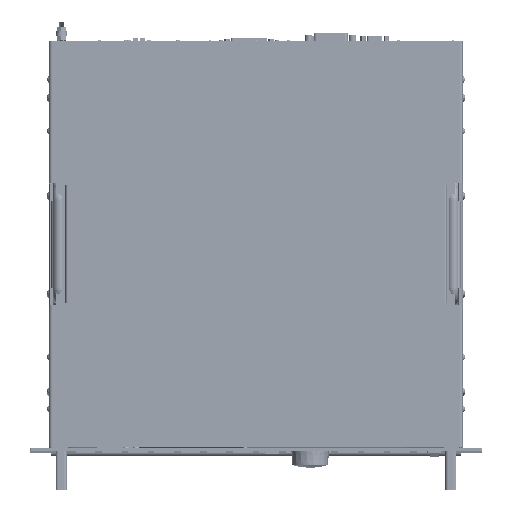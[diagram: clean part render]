
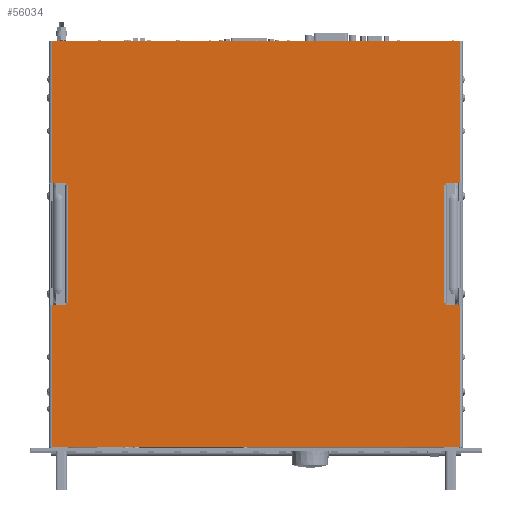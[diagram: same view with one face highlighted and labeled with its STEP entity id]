
A CAD part, top view. The second image highlights one B-rep face of the part: STEP entity #56034.
In plain terms, the highlighted planar face has unit normal (0, 0, 1).
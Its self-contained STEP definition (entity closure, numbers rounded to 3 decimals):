
#56034=ADVANCED_FACE('',(#115923),#115924,.F.);
#115923=FACE_OUTER_BOUND('',#205337,.T.);
#115924=PLANE('',#205338);
#205337=EDGE_LOOP('',(#370837,#370838,#370839,#370840,#370841,#370842,#370843,#370844,#370845,#370846,#370847,#370848,#370849,#370850,#370851,#370852,#370853,#370854,#370855,#370856));
#205338=AXIS2_PLACEMENT_3D('',#370857,#370858,#370859);
#370837=ORIENTED_EDGE('',*,*,#445608,.T.);
#370838=ORIENTED_EDGE('',*,*,#445628,.F.);
#370839=ORIENTED_EDGE('',*,*,#445629,.F.);
#370840=ORIENTED_EDGE('',*,*,#445272,.F.);
#370841=ORIENTED_EDGE('',*,*,#445594,.F.);
#370842=ORIENTED_EDGE('',*,*,#445257,.F.);
#370843=ORIENTED_EDGE('',*,*,#445583,.F.);
#370844=ORIENTED_EDGE('',*,*,#445630,.F.);
#370845=ORIENTED_EDGE('',*,*,#445626,.T.);
#370846=ORIENTED_EDGE('',*,*,#445621,.F.);
#370847=ORIENTED_EDGE('',*,*,#445618,.T.);
#370848=ORIENTED_EDGE('',*,*,#445631,.F.);
#370849=ORIENTED_EDGE('',*,*,#445559,.F.);
#370850=ORIENTED_EDGE('',*,*,#445247,.F.);
#370851=ORIENTED_EDGE('',*,*,#445548,.F.);
#370852=ORIENTED_EDGE('',*,*,#445267,.F.);
#370853=ORIENTED_EDGE('',*,*,#445632,.F.);
#370854=ORIENTED_EDGE('',*,*,#445633,.F.);
#370855=ORIENTED_EDGE('',*,*,#445605,.T.);
#370856=ORIENTED_EDGE('',*,*,#445613,.T.);
#370857=CARTESIAN_POINT('',(241.3,262.625,637.642));
#370858=DIRECTION('',(0.,0.,-1.0));
#370859=DIRECTION('',(-1.0,0.,0.));
#445247=EDGE_CURVE('',#541775,#541777,#541778,.T.);
#445257=EDGE_CURVE('',#541793,#541795,#541796,.T.);
#445267=EDGE_CURVE('',#541811,#541813,#541814,.T.);
#445272=EDGE_CURVE('',#541820,#541822,#541823,.T.);
#445548=EDGE_CURVE('',#541813,#541775,#542253,.T.);
#445559=EDGE_CURVE('',#541777,#542268,#542269,.T.);
#445583=EDGE_CURVE('',#542301,#541793,#542303,.T.);
#445594=EDGE_CURVE('',#541795,#541820,#542318,.T.);
#445605=EDGE_CURVE('',#542329,#542332,#542334,.T.);
#445608=EDGE_CURVE('',#542339,#542336,#542340,.T.);
#445613=EDGE_CURVE('',#542332,#542339,#542345,.T.);
#445618=EDGE_CURVE('',#542351,#542349,#542352,.T.);
#445621=EDGE_CURVE('',#542351,#542355,#542356,.T.);
#445626=EDGE_CURVE('',#542361,#542355,#542363,.T.);
#445628=EDGE_CURVE('',#542365,#542336,#542366,.T.);
#445629=EDGE_CURVE('',#541822,#542365,#542367,.T.);
#445630=EDGE_CURVE('',#542361,#542301,#542368,.T.);
#445631=EDGE_CURVE('',#542268,#542349,#542369,.T.);
#445632=EDGE_CURVE('',#542370,#541811,#542371,.T.);
#445633=EDGE_CURVE('',#542329,#542370,#542372,.T.);
#541775=VERTEX_POINT('',#682353);
#541777=VERTEX_POINT('',#682355);
#541778=LINE('',#682356,#682357);
#541793=VERTEX_POINT('',#682375);
#541795=VERTEX_POINT('',#682377);
#541796=LINE('',#682378,#682379);
#541811=VERTEX_POINT('',#682397);
#541813=VERTEX_POINT('',#682399);
#541814=LINE('',#682400,#682401);
#541820=VERTEX_POINT('',#682408);
#541822=VERTEX_POINT('',#682410);
#541823=LINE('',#682411,#682412);
#542253=LINE('',#682963,#682964);
#542268=VERTEX_POINT('',#682984);
#542269=LINE('',#682985,#682986);
#542301=VERTEX_POINT('',#683032);
#542303=LINE('',#683035,#683036);
#542318=LINE('',#683056,#683057);
#542329=VERTEX_POINT('',#683072);
#542332=VERTEX_POINT('',#683076);
#542334=LINE('',#683078,#683079);
#542336=VERTEX_POINT('',#683081);
#542339=VERTEX_POINT('',#683085);
#542340=LINE('',#683086,#683087);
#542345=LINE('',#683092,#683093);
#542349=VERTEX_POINT('',#683098);
#542351=VERTEX_POINT('',#683101);
#542352=LINE('',#683102,#683103);
#542355=VERTEX_POINT('',#683106);
#542356=LINE('',#683107,#683108);
#542361=VERTEX_POINT('',#683113);
#542363=LINE('',#683116,#683117);
#542365=VERTEX_POINT('',#683119);
#542366=LINE('',#683120,#683121);
#542367=LINE('',#683122,#683123);
#542368=LINE('',#683124,#683125);
#542369=LINE('',#683126,#683127);
#542370=VERTEX_POINT('',#683128);
#542371=LINE('',#683129,#683130);
#542372=LINE('',#683131,#683132);
#682353=CARTESIAN_POINT('',(458.977,479.25,637.642));
#682355=CARTESIAN_POINT('',(458.977,327.25,637.642));
#682356=CARTESIAN_POINT('',(458.977,332.938,637.642));
#682357=VECTOR('',#759727,1.0);
#682375=CARTESIAN_POINT('',(458.977,198.,637.642));
#682377=CARTESIAN_POINT('',(458.977,46.,637.642));
#682378=CARTESIAN_POINT('',(458.977,192.313,637.642));
#682379=VECTOR('',#759743,1.0);
#682397=CARTESIAN_POINT('',(23.623,327.25,637.642));
#682399=CARTESIAN_POINT('',(23.623,479.25,637.642));
#682400=CARTESIAN_POINT('',(23.623,332.938,637.642));
#682401=VECTOR('',#759759,1.0);
#682408=CARTESIAN_POINT('',(23.623,46.,637.642));
#682410=CARTESIAN_POINT('',(23.623,198.,637.642));
#682411=CARTESIAN_POINT('',(23.623,192.313,637.642));
#682412=VECTOR('',#759767,1.0);
#682963=CARTESIAN_POINT('',(20.873,479.25,637.642));
#682964=VECTOR('',#760153,1.0);
#682984=CARTESIAN_POINT('',(443.727,327.25,637.642));
#682985=CARTESIAN_POINT('',(461.727,327.25,637.642));
#682986=VECTOR('',#760171,1.0);
#683032=CARTESIAN_POINT('',(443.727,198.,637.642));
#683035=CARTESIAN_POINT('',(443.727,198.,637.642));
#683036=VECTOR('',#760199,1.0);
#683056=CARTESIAN_POINT('',(461.727,46.,637.642));
#683057=VECTOR('',#760217,1.0);
#683072=CARTESIAN_POINT('',(38.873,325.25,637.642));
#683076=CARTESIAN_POINT('',(40.623,325.25,637.642));
#683078=CARTESIAN_POINT('',(140.007,325.25,637.642));
#683079=VECTOR('',#760229,1.0);
#683081=CARTESIAN_POINT('',(38.873,200.,637.642));
#683085=CARTESIAN_POINT('',(40.623,200.,637.642));
#683086=CARTESIAN_POINT('',(140.007,200.,637.642));
#683087=VECTOR('',#760231,1.0);
#683092=CARTESIAN_POINT('',(40.623,262.625,637.642));
#683093=VECTOR('',#760241,1.0);
#683098=CARTESIAN_POINT('',(443.727,325.25,637.642));
#683101=CARTESIAN_POINT('',(441.977,325.25,637.642));
#683102=CARTESIAN_POINT('',(342.593,325.25,637.642));
#683103=VECTOR('',#760244,1.0);
#683106=CARTESIAN_POINT('',(441.977,200.,637.642));
#683107=CARTESIAN_POINT('',(441.977,262.625,637.642));
#683108=VECTOR('',#760248,1.0);
#683113=CARTESIAN_POINT('',(443.727,200.,637.642));
#683116=CARTESIAN_POINT('',(342.593,200.,637.642));
#683117=VECTOR('',#760256,1.0);
#683119=CARTESIAN_POINT('',(38.873,198.,637.642));
#683120=CARTESIAN_POINT('',(38.873,198.,637.642));
#683121=VECTOR('',#760257,1.0);
#683122=CARTESIAN_POINT('',(20.873,198.,637.642));
#683123=VECTOR('',#760258,1.0);
#683124=CARTESIAN_POINT('',(443.727,200.,637.642));
#683125=VECTOR('',#760259,1.0);
#683126=CARTESIAN_POINT('',(443.727,327.25,637.642));
#683127=VECTOR('',#760260,1.0);
#683128=CARTESIAN_POINT('',(38.873,327.25,637.642));
#683129=CARTESIAN_POINT('',(38.873,327.25,637.642));
#683130=VECTOR('',#760261,1.0);
#683131=CARTESIAN_POINT('',(38.873,325.25,637.642));
#683132=VECTOR('',#760262,1.0);
#759727=DIRECTION('',(0.0,-1.0,0.0));
#759743=DIRECTION('',(0.0,-1.0,0.0));
#759759=DIRECTION('',(0.0,1.0,0.0));
#759767=DIRECTION('',(0.0,1.0,0.0));
#760153=DIRECTION('',(1.0,0.0,0.0));
#760171=DIRECTION('',(-1.0,0.0,0.0));
#760199=DIRECTION('',(1.0,0.0,0.0));
#760217=DIRECTION('',(-1.0,0.0,0.0));
#760229=DIRECTION('',(1.0,0.0,0.0));
#760231=DIRECTION('',(-1.0,0.,0.0));
#760241=DIRECTION('',(0.0,-1.0,0.0));
#760244=DIRECTION('',(1.0,0.0,0.0));
#760248=DIRECTION('',(0.0,-1.0,0.0));
#760256=DIRECTION('',(-1.0,0.,0.0));
#760257=DIRECTION('',(0.0,1.0,0.0));
#760258=DIRECTION('',(1.0,0.0,0.0));
#760259=DIRECTION('',(0.0,-1.0,0.0));
#760260=DIRECTION('',(0.0,-1.0,0.0));
#760261=DIRECTION('',(-1.0,0.0,0.0));
#760262=DIRECTION('',(0.0,1.0,0.0));
